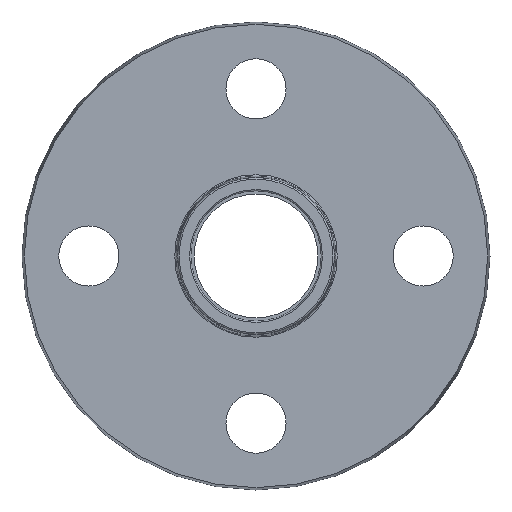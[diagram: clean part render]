
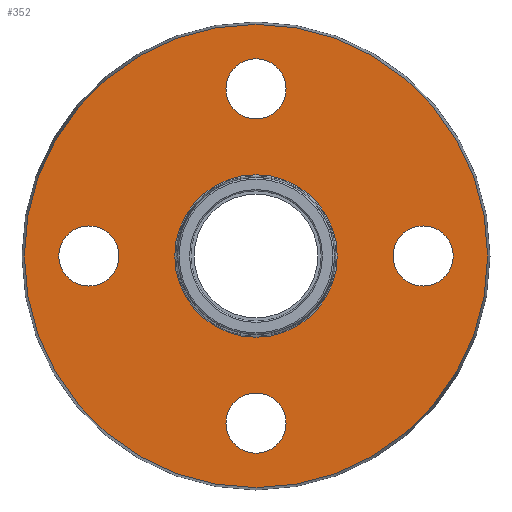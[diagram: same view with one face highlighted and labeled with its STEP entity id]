
A CAD part, left-side view. The second image highlights one B-rep face of the part: STEP entity #352.
In plain terms, the highlighted planar face has unit normal (-1, 0, 0).
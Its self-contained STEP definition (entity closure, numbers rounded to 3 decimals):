
#29=PLANE('',#409);
#56=FACE_BOUND('',#142,.T.);
#57=FACE_BOUND('',#143,.T.);
#58=FACE_BOUND('',#144,.T.);
#59=FACE_BOUND('',#145,.T.);
#60=FACE_BOUND('',#146,.T.);
#88=FACE_OUTER_BOUND('',#141,.T.);
#141=EDGE_LOOP('',(#301));
#142=EDGE_LOOP('',(#302));
#143=EDGE_LOOP('',(#303));
#144=EDGE_LOOP('',(#304));
#145=EDGE_LOOP('',(#305));
#146=EDGE_LOOP('',(#306));
#185=CIRCLE('',#408,24.303);
#186=CIRCLE('',#410,69.3);
#187=CIRCLE('',#411,9.);
#188=CIRCLE('',#412,9.);
#189=CIRCLE('',#413,9.);
#190=CIRCLE('',#414,9.);
#217=VERTEX_POINT('',#617);
#218=VERTEX_POINT('',#620);
#219=VERTEX_POINT('',#622);
#220=VERTEX_POINT('',#624);
#221=VERTEX_POINT('',#626);
#222=VERTEX_POINT('',#628);
#249=EDGE_CURVE('',#217,#217,#185,.T.);
#250=EDGE_CURVE('',#218,#218,#186,.T.);
#251=EDGE_CURVE('',#219,#219,#187,.T.);
#252=EDGE_CURVE('',#220,#220,#188,.T.);
#253=EDGE_CURVE('',#221,#221,#189,.T.);
#254=EDGE_CURVE('',#222,#222,#190,.T.);
#301=ORIENTED_EDGE('',*,*,#250,.T.);
#302=ORIENTED_EDGE('',*,*,#251,.T.);
#303=ORIENTED_EDGE('',*,*,#252,.T.);
#304=ORIENTED_EDGE('',*,*,#253,.T.);
#305=ORIENTED_EDGE('',*,*,#254,.T.);
#306=ORIENTED_EDGE('',*,*,#249,.F.);
#352=ADVANCED_FACE('',(#88,#56,#57,#58,#59,#60),#29,.T.);
#408=AXIS2_PLACEMENT_3D('',#618,#517,#518);
#409=AXIS2_PLACEMENT_3D('',#619,#519,#520);
#410=AXIS2_PLACEMENT_3D('',#621,#521,#522);
#411=AXIS2_PLACEMENT_3D('',#623,#523,#524);
#412=AXIS2_PLACEMENT_3D('',#625,#525,#526);
#413=AXIS2_PLACEMENT_3D('',#627,#527,#528);
#414=AXIS2_PLACEMENT_3D('',#629,#529,#530);
#517=DIRECTION('center_axis',(-1.,0.,0.));
#518=DIRECTION('ref_axis',(0.,1.,0.));
#519=DIRECTION('center_axis',(-1.,0.,0.));
#520=DIRECTION('ref_axis',(0.,0.,1.));
#521=DIRECTION('center_axis',(-1.,0.,0.));
#522=DIRECTION('ref_axis',(0.,0.,1.));
#523=DIRECTION('center_axis',(1.,0.,0.));
#524=DIRECTION('ref_axis',(0.,0.,1.));
#525=DIRECTION('center_axis',(1.,0.,0.));
#526=DIRECTION('ref_axis',(0.,1.,0.));
#527=DIRECTION('center_axis',(1.,0.,0.));
#528=DIRECTION('ref_axis',(0.,0.,-1.));
#529=DIRECTION('center_axis',(1.,0.,0.));
#530=DIRECTION('ref_axis',(0.,-1.,0.));
#617=CARTESIAN_POINT('',(-1.5,-24.303,0.));
#618=CARTESIAN_POINT('Origin',(-1.5,0.,0.));
#619=CARTESIAN_POINT('Origin',(-1.5,-23.931,0.));
#620=CARTESIAN_POINT('',(-1.5,-69.3,0.));
#621=CARTESIAN_POINT('Origin',(-1.5,0.,0.));
#622=CARTESIAN_POINT('',(-1.5,50.,-9.));
#623=CARTESIAN_POINT('Origin',(-1.5,50.,0.));
#624=CARTESIAN_POINT('',(-1.5,-9.,-50.));
#625=CARTESIAN_POINT('Origin',(-1.5,0.,-50.));
#626=CARTESIAN_POINT('',(-1.5,-50.,9.));
#627=CARTESIAN_POINT('Origin',(-1.5,-50.,0.));
#628=CARTESIAN_POINT('',(-1.5,9.,50.));
#629=CARTESIAN_POINT('Origin',(-1.5,0.,50.));
